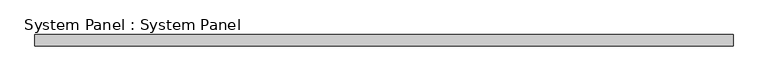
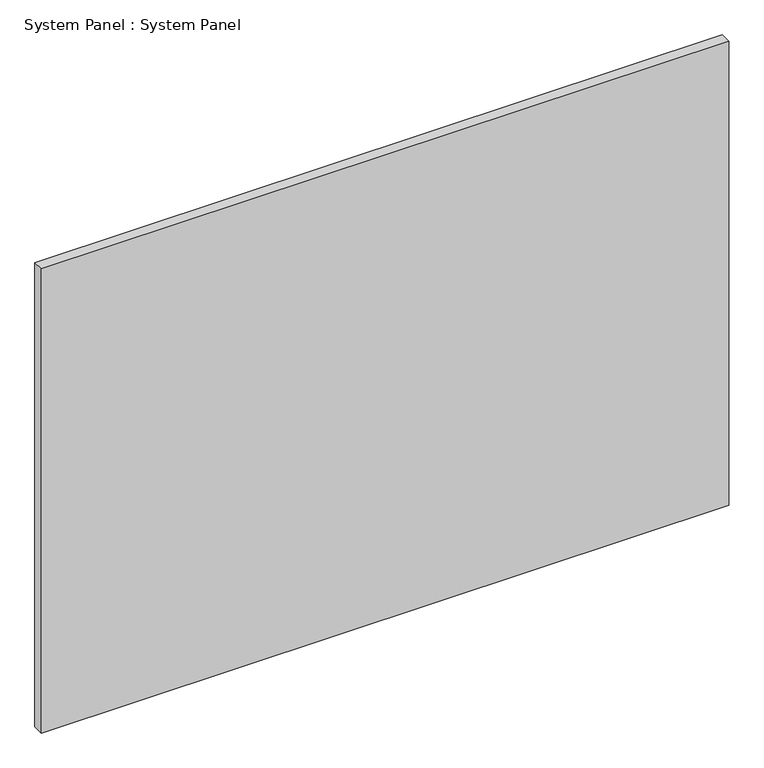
"""IFC4 building model written with IfcOpenShell, lengths in millimetres: plate geometry, System Panel : System Panel."""

from ifc_helpers import new_model, si_unit, origin, origin_with_axes, place, context, project, spatial, polyline, outline, extrude, source, transform, mapped, element, save


def system_panel_system_panel_0ca576fe(model_context):
    return source(origin(), model_context, "Body", "SweptSolid", [
        extrude(outline(polyline([(787.4, 19.05), (-787.4, 19.05), (-787.4, 44.45), (787.4, 44.45), (787.4, 19.05)])), origin_with_axes(), (0.0, 0.0, 1.0), 1123.95),
    ])


if __name__ == "__main__":
    model = new_model("IFC4")
    model_context = context("Model", 3, world=origin())
    ifc_project = project(units=[si_unit("LENGTHUNIT", "METRE", prefix="MILLI")], contexts=[model_context])
    site = spatial("IfcSite", under=ifc_project)
    building = spatial("IfcBuilding", under=site)
    placement = place(None, origin())
    system_panel_system_panel_shape = system_panel_system_panel_0ca576fe(model_context)
    element("IfcPlate", 1, ObjectType="System Panel : System Panel", at=placement, inside=building, context=model_context, shape_type="MappedRepresentation", body=[
        mapped(system_panel_system_panel_shape, transform((0.0, 0.0, 0.0), x_axis=(1.0, 0.0, 0.0), y_axis=(0.0, 1.0, 0.0), z_axis=(0.0, 0.0, 1.0))),
    ])
    save(model, "model.ifc")
